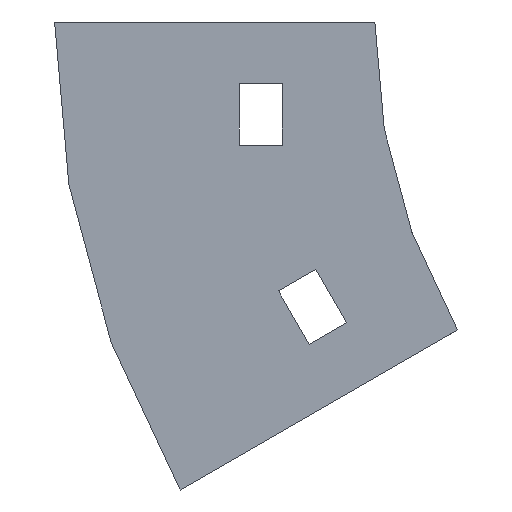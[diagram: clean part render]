
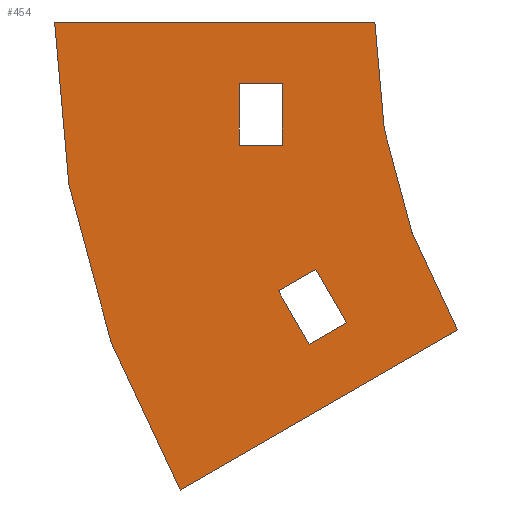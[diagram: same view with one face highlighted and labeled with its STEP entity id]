
A CAD part, left-side view. The second image highlights one B-rep face of the part: STEP entity #454.
In plain terms, the highlighted planar face has unit normal (-1, 0, 0).
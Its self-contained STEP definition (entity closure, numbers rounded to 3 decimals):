
#1 = CARTESIAN_POINT ( 'NONE',  ( -202., 4.593, -48.84 ) ) ;
#8 = DIRECTION ( 'NONE',  ( 0., 0., -1. ) ) ;
#11 = FACE_BOUND ( 'NONE', #326, .T. ) ;
#24 = VERTEX_POINT ( 'NONE', #86 ) ;
#26 = DIRECTION ( 'NONE',  ( 1., 0., 0. ) ) ;
#30 = EDGE_CURVE ( 'NONE', #381, #928, #1065, .T. ) ;
#41 = VECTOR ( 'NONE', #1074, 1000. ) ;
#42 = EDGE_CURVE ( 'NONE', #1135, #24, #802, .T. ) ;
#47 = ORIENTED_EDGE ( 'NONE', *, *, #338, .F. ) ;
#49 = EDGE_CURVE ( 'NONE', #687, #381, #853, .T. ) ;
#53 = CARTESIAN_POINT ( 'NONE',  ( -202., 22., -20. ) ) ;
#66 = VERTEX_POINT ( 'NONE', #1075 ) ;
#86 = CARTESIAN_POINT ( 'NONE',  ( -202., 15.655, -43.679 ) ) ;
#92 = ORIENTED_EDGE ( 'NONE', *, *, #658, .F. ) ;
#106 = CARTESIAN_POINT ( 'NONE',  ( -202., 22., -10. ) ) ;
#110 = LINE ( 'NONE', #460, #165 ) ;
#120 = CARTESIAN_POINT ( 'NONE',  ( -202., -13.397, -50. ) ) ;
#133 = ORIENTED_EDGE ( 'NONE', *, *, #599, .T. ) ;
#155 = ORIENTED_EDGE ( 'NONE', *, *, #176, .T. ) ;
#158 = CARTESIAN_POINT ( 'NONE',  ( -202., 15., -10. ) ) ;
#165 = VECTOR ( 'NONE', #384, 1000. ) ;
#167 = ORIENTED_EDGE ( 'NONE', *, *, #183, .F. ) ;
#168 = CARTESIAN_POINT ( 'NONE',  ( -202., 10.655, -52.34 ) ) ;
#176 = EDGE_CURVE ( 'NONE', #848, #979, #651, .T. ) ;
#183 = EDGE_CURVE ( 'NONE', #506, #855, #110, .T. ) ;
#261 = DIRECTION ( 'NONE',  ( -1., 0., 0. ) ) ;
#263 = CARTESIAN_POINT ( 'NONE',  ( -202., 52., 0. ) ) ;
#301 = VECTOR ( 'NONE', #8, 1000. ) ;
#326 = EDGE_LOOP ( 'NONE', ( #47, #167, #787, #935 ) ) ;
#338 = EDGE_CURVE ( 'NONE', #855, #1135, #820, .T. ) ;
#356 = DIRECTION ( 'NONE',  ( 0., 0.5, 0.866 ) ) ;
#359 = LINE ( 'NONE', #106, #1057 ) ;
#368 = DIRECTION ( 'NONE',  ( 0., 0., 1. ) ) ;
#369 = ORIENTED_EDGE ( 'NONE', *, *, #589, .F. ) ;
#381 = VERTEX_POINT ( 'NONE', #921 ) ;
#384 = DIRECTION ( 'NONE',  ( 0., -0.866, 0.5 ) ) ;
#390 = CARTESIAN_POINT ( 'NONE',  ( -202., 22., -10. ) ) ;
#430 = CARTESIAN_POINT ( 'NONE',  ( -202., 10.655, -52.34 ) ) ;
#440 = DIRECTION ( 'NONE',  ( 0., -1., 0. ) ) ;
#453 = DIRECTION ( 'NONE',  ( 0., 0., 1. ) ) ;
#454 = ADVANCED_FACE ( 'NONE', ( #526, #784, #11 ), #587, .T. ) ;
#460 = CARTESIAN_POINT ( 'NONE',  ( -202., 10.655, -52.34 ) ) ;
#503 = EDGE_LOOP ( 'NONE', ( #369, #593, #585, #92 ) ) ;
#506 = VERTEX_POINT ( 'NONE', #430 ) ;
#526 = FACE_BOUND ( 'NONE', #594, .T. ) ;
#528 = LINE ( 'NONE', #168, #41 ) ;
#530 = DIRECTION ( 'NONE',  ( -1., 0., 0. ) ) ;
#539 = VECTOR ( 'NONE', #440, 1000. ) ;
#546 = CARTESIAN_POINT ( 'NONE',  ( -202., 9.593, -40.179 ) ) ;
#585 = ORIENTED_EDGE ( 'NONE', *, *, #49, .F. ) ;
#587 = PLANE ( 'NONE',  #793 ) ;
#589 = EDGE_CURVE ( 'NONE', #928, #66, #645, .T. ) ;
#593 = ORIENTED_EDGE ( 'NONE', *, *, #30, .F. ) ;
#594 = EDGE_LOOP ( 'NONE', ( #833, #155, #826, #133 ) ) ;
#599 = EDGE_CURVE ( 'NONE', #1144, #829, #359, .T. ) ;
#607 = VECTOR ( 'NONE', #760, 1000. ) ;
#622 = DIRECTION ( 'NONE',  ( 0., 0.866, -0.5 ) ) ;
#635 = LINE ( 'NONE', #390, #1020 ) ;
#645 = CIRCLE ( 'NONE', #814, 100. ) ;
#649 = DIRECTION ( 'NONE',  ( 0., -1., 0. ) ) ;
#651 = LINE ( 'NONE', #901, #301 ) ;
#658 = EDGE_CURVE ( 'NONE', #66, #687, #995, .T. ) ;
#664 = CARTESIAN_POINT ( 'NONE',  ( -202., 22., -10. ) ) ;
#684 = EDGE_CURVE ( 'NONE', #829, #848, #635, .T. ) ;
#686 = AXIS2_PLACEMENT_3D ( 'NONE', #807, #26, #1102 ) ;
#687 = VERTEX_POINT ( 'NONE', #1018 ) ;
#690 = CARTESIAN_POINT ( 'NONE',  ( -202., 0., 0. ) ) ;
#702 = CARTESIAN_POINT ( 'NONE',  ( -202., 15., -20. ) ) ;
#753 = CARTESIAN_POINT ( 'NONE',  ( -202., 4.593, -48.84 ) ) ;
#760 = DIRECTION ( 'NONE',  ( 0., 1., 0. ) ) ;
#784 = FACE_OUTER_BOUND ( 'NONE', #503, .T. ) ;
#787 = ORIENTED_EDGE ( 'NONE', *, *, #1001, .F. ) ;
#793 = AXIS2_PLACEMENT_3D ( 'NONE', #1066, #261, #368 ) ;
#802 = LINE ( 'NONE', #1070, #915 ) ;
#803 = DIRECTION ( 'NONE',  ( 0., 0., 1. ) ) ;
#807 = CARTESIAN_POINT ( 'NONE',  ( -202., -100., 0. ) ) ;
#814 = AXIS2_PLACEMENT_3D ( 'NONE', #884, #530, #803 ) ;
#820 = LINE ( 'NONE', #1, #1146 ) ;
#826 = ORIENTED_EDGE ( 'NONE', *, *, #880, .T. ) ;
#829 = VERTEX_POINT ( 'NONE', #664 ) ;
#833 = ORIENTED_EDGE ( 'NONE', *, *, #684, .T. ) ;
#844 = LINE ( 'NONE', #53, #607 ) ;
#848 = VERTEX_POINT ( 'NONE', #158 ) ;
#853 = CIRCLE ( 'NONE', #686, 152. ) ;
#855 = VERTEX_POINT ( 'NONE', #753 ) ;
#880 = EDGE_CURVE ( 'NONE', #979, #1144, #844, .T. ) ;
#884 = CARTESIAN_POINT ( 'NONE',  ( -202., -100., 0. ) ) ;
#901 = CARTESIAN_POINT ( 'NONE',  ( -202., 15., -10. ) ) ;
#915 = VECTOR ( 'NONE', #622, 1000. ) ;
#921 = CARTESIAN_POINT ( 'NONE',  ( -202., 52., 0. ) ) ;
#928 = VERTEX_POINT ( 'NONE', #690 ) ;
#935 = ORIENTED_EDGE ( 'NONE', *, *, #42, .F. ) ;
#979 = VERTEX_POINT ( 'NONE', #702 ) ;
#989 = CARTESIAN_POINT ( 'NONE',  ( -202., 22., -20. ) ) ;
#995 = LINE ( 'NONE', #120, #1099 ) ;
#1001 = EDGE_CURVE ( 'NONE', #24, #506, #528, .T. ) ;
#1018 = CARTESIAN_POINT ( 'NONE',  ( -202., 31.636, -76. ) ) ;
#1020 = VECTOR ( 'NONE', #649, 1000. ) ;
#1057 = VECTOR ( 'NONE', #453, 1000. ) ;
#1065 = LINE ( 'NONE', #263, #539 ) ;
#1066 = CARTESIAN_POINT ( 'NONE',  ( -202., -100., 0. ) ) ;
#1070 = CARTESIAN_POINT ( 'NONE',  ( -202., 15.655, -43.679 ) ) ;
#1074 = DIRECTION ( 'NONE',  ( 0., -0.5, -0.866 ) ) ;
#1075 = CARTESIAN_POINT ( 'NONE',  ( -202., -13.397, -50. ) ) ;
#1084 = DIRECTION ( 'NONE',  ( 0., 0.866, -0.5 ) ) ;
#1099 = VECTOR ( 'NONE', #1084, 1000. ) ;
#1102 = DIRECTION ( 'NONE',  ( 0., 0., 1. ) ) ;
#1135 = VERTEX_POINT ( 'NONE', #546 ) ;
#1144 = VERTEX_POINT ( 'NONE', #989 ) ;
#1146 = VECTOR ( 'NONE', #356, 1000. ) ;
